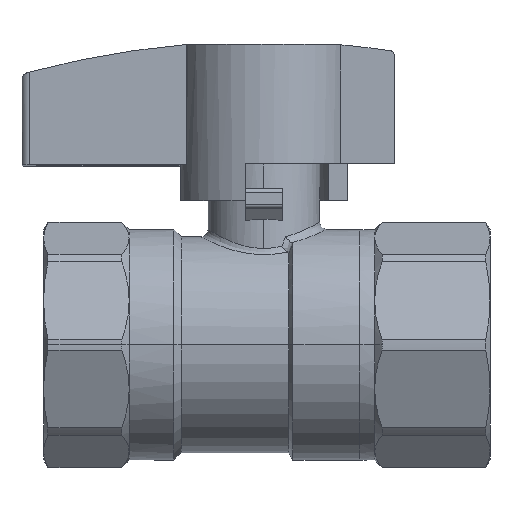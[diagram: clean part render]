
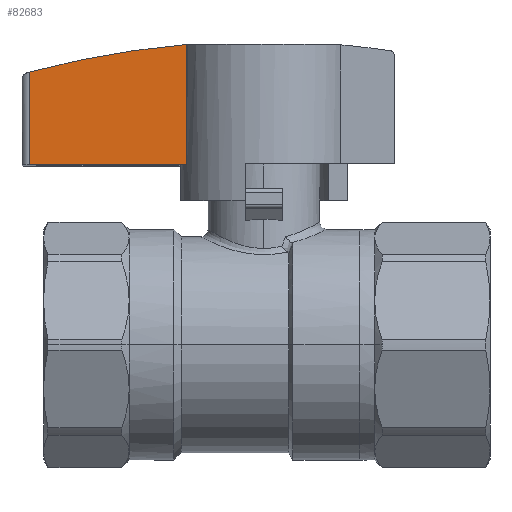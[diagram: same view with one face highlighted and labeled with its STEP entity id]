
A CAD part, front view. The second image highlights one B-rep face of the part: STEP entity #82683.
In plain terms, the highlighted planar face has unit normal (0, -1, 0).
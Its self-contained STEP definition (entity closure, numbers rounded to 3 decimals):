
#80998 = PLANE('',#80999);
#80999 = AXIS2_PLACEMENT_3D('',#81000,#81001,#81002);
#81000 = CARTESIAN_POINT('',(29.748,-25.163,
    -18.533));
#81001 = DIRECTION('',(0.,-0.017,
    -1.));
#81002 = DIRECTION('',(0.,1.,
    -0.017));
#81386 = CYLINDRICAL_SURFACE('',#81387,4.728);
#81387 = AXIS2_PLACEMENT_3D('',#81388,#81389,#81390);
#81388 = CARTESIAN_POINT('',(29.048,-25.163,
    -22.608));
#81389 = DIRECTION('',(0.,1.,0.));
#81390 = DIRECTION('',(0.,0.,1.));
#81767 = EDGE_CURVE('',#81768,#81770,#81772,.T.);
#81768 = VERTEX_POINT('',#81769);
#81769 = CARTESIAN_POINT('',(27.818,-25.163,
    -18.533));
#81770 = VERTEX_POINT('',#81771);
#81771 = CARTESIAN_POINT('',(28.651,-25.163,
    -18.533));
#81772 = SURFACE_CURVE('',#81773,(#81777,#81784),.PCURVE_S1.);
#81773 = LINE('',#81774,#81775);
#81774 = CARTESIAN_POINT('',(29.748,-25.163,
    -18.533));
#81775 = VECTOR('',#81776,1.);
#81776 = DIRECTION('',(1.,0.,0.));
#81777 = PCURVE('',#80998,#81778);
#81778 = DEFINITIONAL_REPRESENTATION('',(#81779),#81783);
#81779 = LINE('',#81780,#81781);
#81780 = CARTESIAN_POINT('',(0.,0.));
#81781 = VECTOR('',#81782,1.);
#81782 = DIRECTION('',(0.,1.));
#81783 = ( GEOMETRIC_REPRESENTATION_CONTEXT(2) 
PARAMETRIC_REPRESENTATION_CONTEXT() REPRESENTATION_CONTEXT('2D SPACE',''
  ) );
#81784 = PCURVE('',#81785,#81790);
#81785 = PLANE('',#81786);
#81786 = AXIS2_PLACEMENT_3D('',#81787,#81788,#81789);
#81787 = CARTESIAN_POINT('',(29.048,-25.163,
    -22.608));
#81788 = DIRECTION('',(0.,-1.,0.));
#81789 = DIRECTION('',(0.,0.,-1.));
#81790 = DEFINITIONAL_REPRESENTATION('',(#81791),#81795);
#81791 = LINE('',#81792,#81793);
#81792 = CARTESIAN_POINT('',(-4.075,0.7));
#81793 = VECTOR('',#81794,1.);
#81794 = DIRECTION('',(0.,1.));
#81795 = ( GEOMETRIC_REPRESENTATION_CONTEXT(2) 
PARAMETRIC_REPRESENTATION_CONTEXT() REPRESENTATION_CONTEXT('2D SPACE',''
  ) );
#81815 = CYLINDRICAL_SURFACE('',#81816,0.039);
#81816 = AXIS2_PLACEMENT_3D('',#81817,#81818,#81819);
#81817 = CARTESIAN_POINT('',(27.818,-25.123,
    -22.608));
#81818 = DIRECTION('',(0.,0.,1.));
#81819 = DIRECTION('',(-1.,0.,0.));
#82012 = CYLINDRICAL_SURFACE('',#82013,0.453);
#82013 = AXIS2_PLACEMENT_3D('',#82014,#82015,#82016);
#82014 = CARTESIAN_POINT('',(29.059,-24.966,
    -16.614));
#82015 = DIRECTION('',(0.,0.,-1.));
#82016 = DIRECTION('',(1.,0.,0.));
#82683 = ADVANCED_FACE('',(#82684),#81785,.T.);
#82684 = FACE_BOUND('',#82685,.T.);
#82685 = EDGE_LOOP('',(#82686,#82712,#82733,#82734));
#82686 = ORIENTED_EDGE('',*,*,#82687,.T.);
#82687 = EDGE_CURVE('',#82688,#82690,#82692,.T.);
#82688 = VERTEX_POINT('',#82689);
#82689 = CARTESIAN_POINT('',(28.651,-25.163,
    -17.897));
#82690 = VERTEX_POINT('',#82691);
#82691 = CARTESIAN_POINT('',(27.818,-25.163,
    -18.043));
#82692 = SURFACE_CURVE('',#82693,(#82698,#82705),.PCURVE_S1.);
#82693 = CIRCLE('',#82694,4.728);
#82694 = AXIS2_PLACEMENT_3D('',#82695,#82696,#82697);
#82695 = CARTESIAN_POINT('',(29.048,-25.163,
    -22.608));
#82696 = DIRECTION('',(0.,-1.,0.));
#82697 = DIRECTION('',(0.,0.,-1.));
#82698 = PCURVE('',#81785,#82699);
#82699 = DEFINITIONAL_REPRESENTATION('',(#82700),#82704);
#82700 = CIRCLE('',#82701,4.728);
#82701 = AXIS2_PLACEMENT_2D('',#82702,#82703);
#82702 = CARTESIAN_POINT('',(0.,0.));
#82703 = DIRECTION('',(1.,0.));
#82704 = ( GEOMETRIC_REPRESENTATION_CONTEXT(2) 
PARAMETRIC_REPRESENTATION_CONTEXT() REPRESENTATION_CONTEXT('2D SPACE',''
  ) );
#82705 = PCURVE('',#81386,#82706);
#82706 = DEFINITIONAL_REPRESENTATION('',(#82707),#82711);
#82707 = LINE('',#82708,#82709);
#82708 = CARTESIAN_POINT('',(9.425,0.));
#82709 = VECTOR('',#82710,1.);
#82710 = DIRECTION('',(-1.,0.));
#82711 = ( GEOMETRIC_REPRESENTATION_CONTEXT(2) 
PARAMETRIC_REPRESENTATION_CONTEXT() REPRESENTATION_CONTEXT('2D SPACE',''
  ) );
#82712 = ORIENTED_EDGE('',*,*,#82713,.T.);
#82713 = EDGE_CURVE('',#82690,#81768,#82714,.T.);
#82714 = SURFACE_CURVE('',#82715,(#82719,#82726),.PCURVE_S1.);
#82715 = LINE('',#82716,#82717);
#82716 = CARTESIAN_POINT('',(27.818,-25.163,
    -18.533));
#82717 = VECTOR('',#82718,1.);
#82718 = DIRECTION('',(0.,0.,-1.));
#82719 = PCURVE('',#81785,#82720);
#82720 = DEFINITIONAL_REPRESENTATION('',(#82721),#82725);
#82721 = LINE('',#82722,#82723);
#82722 = CARTESIAN_POINT('',(-4.075,-1.231));
#82723 = VECTOR('',#82724,1.);
#82724 = DIRECTION('',(1.,0.));
#82725 = ( GEOMETRIC_REPRESENTATION_CONTEXT(2) 
PARAMETRIC_REPRESENTATION_CONTEXT() REPRESENTATION_CONTEXT('2D SPACE',''
  ) );
#82726 = PCURVE('',#81815,#82727);
#82727 = DEFINITIONAL_REPRESENTATION('',(#82728),#82732);
#82728 = LINE('',#82729,#82730);
#82729 = CARTESIAN_POINT('',(1.571,4.075));
#82730 = VECTOR('',#82731,1.);
#82731 = DIRECTION('',(0.,-1.));
#82732 = ( GEOMETRIC_REPRESENTATION_CONTEXT(2) 
PARAMETRIC_REPRESENTATION_CONTEXT() REPRESENTATION_CONTEXT('2D SPACE',''
  ) );
#82733 = ORIENTED_EDGE('',*,*,#81767,.T.);
#82734 = ORIENTED_EDGE('',*,*,#82735,.F.);
#82735 = EDGE_CURVE('',#82688,#81770,#82736,.T.);
#82736 = SURFACE_CURVE('',#82737,(#82741,#82748),.PCURVE_S1.);
#82737 = LINE('',#82738,#82739);
#82738 = CARTESIAN_POINT('',(28.651,-25.163,
    -16.614));
#82739 = VECTOR('',#82740,1.);
#82740 = DIRECTION('',(0.,0.,-1.));
#82741 = PCURVE('',#81785,#82742);
#82742 = DEFINITIONAL_REPRESENTATION('',(#82743),#82747);
#82743 = LINE('',#82744,#82745);
#82744 = CARTESIAN_POINT('',(-5.993,-0.398));
#82745 = VECTOR('',#82746,1.);
#82746 = DIRECTION('',(1.,0.));
#82747 = ( GEOMETRIC_REPRESENTATION_CONTEXT(2) 
PARAMETRIC_REPRESENTATION_CONTEXT() REPRESENTATION_CONTEXT('2D SPACE',''
  ) );
#82748 = PCURVE('',#82012,#82749);
#82749 = DEFINITIONAL_REPRESENTATION('',(#82750),#82754);
#82750 = LINE('',#82751,#82752);
#82751 = CARTESIAN_POINT('',(2.692,0.));
#82752 = VECTOR('',#82753,1.);
#82753 = DIRECTION('',(0.,1.));
#82754 = ( GEOMETRIC_REPRESENTATION_CONTEXT(2) 
PARAMETRIC_REPRESENTATION_CONTEXT() REPRESENTATION_CONTEXT('2D SPACE',''
  ) );
